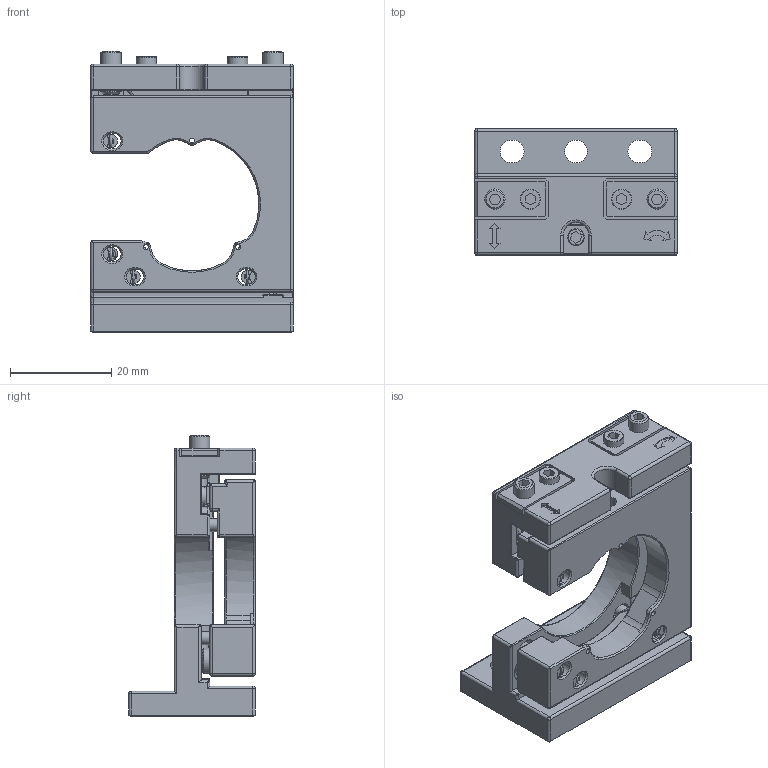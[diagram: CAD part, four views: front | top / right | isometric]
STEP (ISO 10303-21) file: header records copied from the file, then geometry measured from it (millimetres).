
FILE_DESCRIPTION(/* description */ (''),/* implementation_level */ '2;1');
FILE_NAME(/* name */ 'VMHV-25.4L-R_STP.stp',/* time_stamp */ '2025-10-16T16:09:55+09:00',/* author */ (''),/* organization */ (''),/* preprocessor_version */ 'ST-DEVELOPER v19.2',/* originating_system */ 'Autodesk Inventor 2023',/* authorisation */ '');
FILE_SCHEMA (('AUTOMOTIVE_DESIGN { 1 0 10303 214 3 1 1 }'));
Length unit declared in the file: millimetre
Products named in the file (6): VMHV25.4R-M02-25001-TS01; MHV25.4L-M02-21001-S01; MHV25.4LR-M02-21001-S02; MHV25.4L-M02-21001-S03; MHV25.4L-M03-21005　A; φ4
Assembly tree (6 placements, depth 2):
  VMHV25.4R-M02-25001-TS01
    MHV25.4L-M02-21001-S01
    MHV25.4LR-M02-21001-S02
    MHV25.4L-M02-21001-S03
    MHV25.4L-M03-21005　A
    φ4  x2
Bounding box: 40 x 25 x 55.5 mm (x, y, z)
Volume: 19656.7 mm3; surface area: 14113.9 mm2
Topology: 7 solids, 11 shells, 889 faces, 2210 edges, 1358 vertices
Faces by surface type: plane 454, cylinder 240, cone 87, bspline 44, sphere 39, torus 25
Full cylindrical faces by diameter (mm): 1 x3, 1.5 x2, 1.6 x1, 2 x2, 2.6 x4, 3 x1, 3.3 x1, 3.4 x2, 3.5 x2, 3.8 x4, 4 x7, 4.1 x1, 4.2 x2, 4.5 x1, 5 x1, 5.4 x2, 5.5 x3, 6.8 x2, 7 x2
Entity records: 27431 total; most frequent: CARTESIAN_POINT 6008, DIRECTION 4483, ORIENTED_EDGE 4354, EDGE_CURVE 2177, AXIS2_PLACEMENT_3D 1552, LINE 1379, VECTOR 1379, VERTEX_POINT 1355
